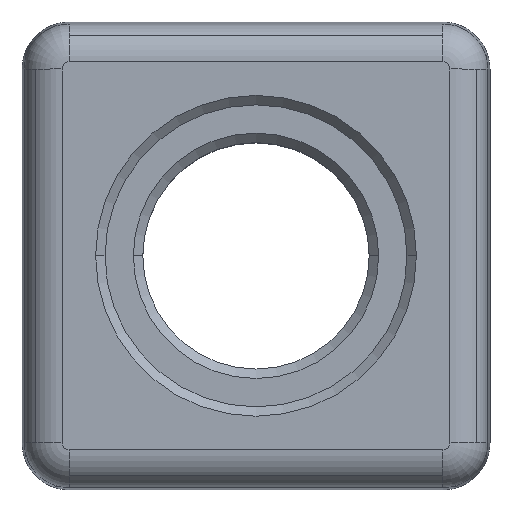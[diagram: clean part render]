
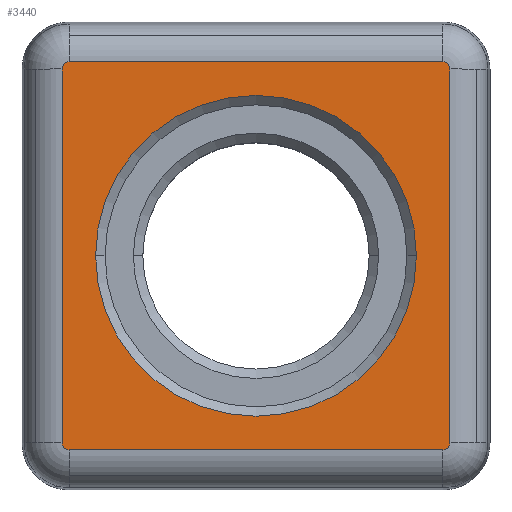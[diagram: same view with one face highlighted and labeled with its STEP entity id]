
A CAD part, top view. The second image highlights one B-rep face of the part: STEP entity #3440.
In plain terms, the highlighted planar face has unit normal (0, 0, 1).
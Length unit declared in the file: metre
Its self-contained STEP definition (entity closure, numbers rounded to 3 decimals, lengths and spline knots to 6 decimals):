
#2 = DIRECTION ( 'NONE',  ( 0., 0., -1. ) ) ;
#61 = FACE_BOUND ( 'NONE', #520, .T. ) ;
#122 = LINE ( 'NONE', #816, #830 ) ;
#131 = ORIENTED_EDGE ( 'NONE', *, *, #218, .F. ) ;
#196 = CIRCLE ( 'NONE', #992, 0.000377 ) ;
#204 = AXIS2_PLACEMENT_3D ( 'NONE', #1338, #1901, #1656 ) ;
#210 = CARTESIAN_POINT ( 'NONE',  ( 0.410855, 0.464369, 0.01275 ) ) ;
#218 = EDGE_CURVE ( 'NONE', #229, #3513, #3688, .T. ) ;
#223 = DIRECTION ( 'NONE',  ( -1., 0., 0. ) ) ;
#229 = VERTEX_POINT ( 'NONE', #2623 ) ;
#233 = DIRECTION ( 'NONE',  ( 0., -1., 0. ) ) ;
#248 = VERTEX_POINT ( 'NONE', #937 ) ;
#259 = VECTOR ( 'NONE', #233, 1. ) ;
#263 = ORIENTED_EDGE ( 'NONE', *, *, #568, .F. ) ;
#282 = AXIS2_PLACEMENT_3D ( 'NONE', #2925, #2395, #697 ) ;
#336 = EDGE_CURVE ( 'NONE', #3054, #498, #3693, .T. ) ;
#438 = DIRECTION ( 'NONE',  ( 0., 0., -1. ) ) ;
#451 = EDGE_CURVE ( 'NONE', #248, #229, #2856, .T. ) ;
#498 = VERTEX_POINT ( 'NONE', #3413 ) ;
#520 = EDGE_LOOP ( 'NONE', ( #2954, #263 ) ) ;
#565 = LINE ( 'NONE', #210, #2746 ) ;
#568 = EDGE_CURVE ( 'NONE', #3502, #3592, #1834, .T. ) ;
#582 = CARTESIAN_POINT ( 'NONE',  ( 0.425946, 0.464745, 0.01275 ) ) ;
#585 = VECTOR ( 'NONE', #3205, 1. ) ;
#697 = DIRECTION ( 'NONE',  ( -0.707, 0.707, 0. ) ) ;
#736 = DIRECTION ( 'NONE',  ( 0.707, -0.707, 0. ) ) ;
#770 = EDGE_CURVE ( 'NONE', #1598, #3054, #2899, .T. ) ;
#816 = CARTESIAN_POINT ( 'NONE',  ( 0.410855, 0.484922, 0.01275 ) ) ;
#830 = VECTOR ( 'NONE', #3394, 1. ) ;
#937 = CARTESIAN_POINT ( 'NONE',  ( 0.405769, 0.464369, 0.01275 ) ) ;
#992 = AXIS2_PLACEMENT_3D ( 'NONE', #3408, #2, #3192 ) ;
#1184 = CARTESIAN_POINT ( 'NONE',  ( 0.407169, 0.474645, 0.01275 ) ) ;
#1261 = ORIENTED_EDGE ( 'NONE', *, *, #2384, .F. ) ;
#1312 = DIRECTION ( 'NONE',  ( 0., 0., 1. ) ) ;
#1338 = CARTESIAN_POINT ( 'NONE',  ( 0.405769, 0.464745, 0.01275 ) ) ;
#1395 = CARTESIAN_POINT ( 'NONE',  ( 0.425946, 0.474645, 0.01275 ) ) ;
#1401 = CARTESIAN_POINT ( 'NONE',  ( 0.405393, 0.484545, 0.01275 ) ) ;
#1411 = ORIENTED_EDGE ( 'NONE', *, *, #336, .F. ) ;
#1414 = EDGE_CURVE ( 'NONE', #3513, #2858, #3329, .T. ) ;
#1552 = FACE_OUTER_BOUND ( 'NONE', #2771, .T. ) ;
#1584 = CARTESIAN_POINT ( 'NONE',  ( 0.40604, 0.474645, 0.01275 ) ) ;
#1598 = VERTEX_POINT ( 'NONE', #2556 ) ;
#1656 = DIRECTION ( 'NONE',  ( -0.707, -0.707, 0. ) ) ;
#1713 = DIRECTION ( 'NONE',  ( 1., 0., 0. ) ) ;
#1812 = CARTESIAN_POINT ( 'NONE',  ( 0.405393, 0.474645, 0.01275 ) ) ;
#1834 = CIRCLE ( 'NONE', #3380, 0.0085 ) ;
#1901 = DIRECTION ( 'NONE',  ( 0., 0., -1. ) ) ;
#1958 = EDGE_CURVE ( 'NONE', #2858, #3082, #122, .T. ) ;
#2048 = AXIS2_PLACEMENT_3D ( 'NONE', #3556, #438, #736 ) ;
#2105 = ORIENTED_EDGE ( 'NONE', *, *, #1958, .F. ) ;
#2247 = ORIENTED_EDGE ( 'NONE', *, *, #451, .F. ) ;
#2384 = EDGE_CURVE ( 'NONE', #498, #248, #565, .T. ) ;
#2395 = DIRECTION ( 'NONE',  ( 0., 0., -1. ) ) ;
#2556 = CARTESIAN_POINT ( 'NONE',  ( 0.425946, 0.484545, 0.01275 ) ) ;
#2584 = ORIENTED_EDGE ( 'NONE', *, *, #770, .F. ) ;
#2592 = ORIENTED_EDGE ( 'NONE', *, *, #2732, .F. ) ;
#2596 = CARTESIAN_POINT ( 'NONE',  ( 0.425569, 0.484922, 0.01275 ) ) ;
#2623 = CARTESIAN_POINT ( 'NONE',  ( 0.405393, 0.464745, 0.01275 ) ) ;
#2710 = DIRECTION ( 'NONE',  ( 0., 0., 1. ) ) ;
#2732 = EDGE_CURVE ( 'NONE', #3082, #1598, #196, .T. ) ;
#2744 = CARTESIAN_POINT ( 'NONE',  ( 0.415669, 0.474645, 0.01275 ) ) ;
#2746 = VECTOR ( 'NONE', #223, 1. ) ;
#2771 = EDGE_LOOP ( 'NONE', ( #2584, #2592, #2105, #3284, #131, #2247, #1261, #1411 ) ) ;
#2856 = CIRCLE ( 'NONE', #204, 0.000377 ) ;
#2858 = VERTEX_POINT ( 'NONE', #3587 ) ;
#2899 = LINE ( 'NONE', #1395, #259 ) ;
#2905 = AXIS2_PLACEMENT_3D ( 'NONE', #1584, #1312, #3255 ) ;
#2925 = CARTESIAN_POINT ( 'NONE',  ( 0.405769, 0.484545, 0.01275 ) ) ;
#2954 = ORIENTED_EDGE ( 'NONE', *, *, #3041, .F. ) ;
#3035 = CARTESIAN_POINT ( 'NONE',  ( 0.424169, 0.474645, 0.01275 ) ) ;
#3041 = EDGE_CURVE ( 'NONE', #3592, #3502, #3270, .T. ) ;
#3054 = VERTEX_POINT ( 'NONE', #582 ) ;
#3061 = AXIS2_PLACEMENT_3D ( 'NONE', #3406, #3152, #1713 ) ;
#3082 = VERTEX_POINT ( 'NONE', #2596 ) ;
#3152 = DIRECTION ( 'NONE',  ( 0., 0., 1. ) ) ;
#3192 = DIRECTION ( 'NONE',  ( 0.707, 0.707, 0. ) ) ;
#3205 = DIRECTION ( 'NONE',  ( 0., 1., 0. ) ) ;
#3255 = DIRECTION ( 'NONE',  ( 1., 0., 0. ) ) ;
#3270 = CIRCLE ( 'NONE', #3061, 0.0085 ) ;
#3284 = ORIENTED_EDGE ( 'NONE', *, *, #1414, .F. ) ;
#3329 = CIRCLE ( 'NONE', #282, 0.000377 ) ;
#3380 = AXIS2_PLACEMENT_3D ( 'NONE', #2744, #2710, #3577 ) ;
#3394 = DIRECTION ( 'NONE',  ( 1., 0., 0. ) ) ;
#3406 = CARTESIAN_POINT ( 'NONE',  ( 0.415669, 0.474645, 0.01275 ) ) ;
#3408 = CARTESIAN_POINT ( 'NONE',  ( 0.425569, 0.484545, 0.01275 ) ) ;
#3413 = CARTESIAN_POINT ( 'NONE',  ( 0.425569, 0.464369, 0.01275 ) ) ;
#3440 = ADVANCED_FACE ( 'NONE', ( #1552, #61 ), #3572, .T. ) ;
#3502 = VERTEX_POINT ( 'NONE', #3035 ) ;
#3513 = VERTEX_POINT ( 'NONE', #1401 ) ;
#3556 = CARTESIAN_POINT ( 'NONE',  ( 0.425569, 0.464745, 0.01275 ) ) ;
#3572 = PLANE ( 'NONE',  #2905 ) ;
#3577 = DIRECTION ( 'NONE',  ( 1., 0., 0. ) ) ;
#3587 = CARTESIAN_POINT ( 'NONE',  ( 0.405769, 0.484922, 0.01275 ) ) ;
#3592 = VERTEX_POINT ( 'NONE', #1184 ) ;
#3688 = LINE ( 'NONE', #1812, #585 ) ;
#3693 = CIRCLE ( 'NONE', #2048, 0.000377 ) ;
